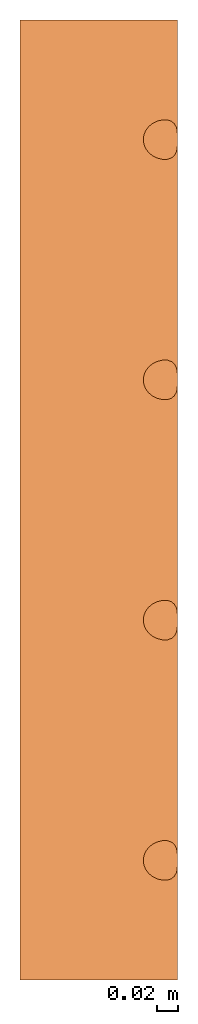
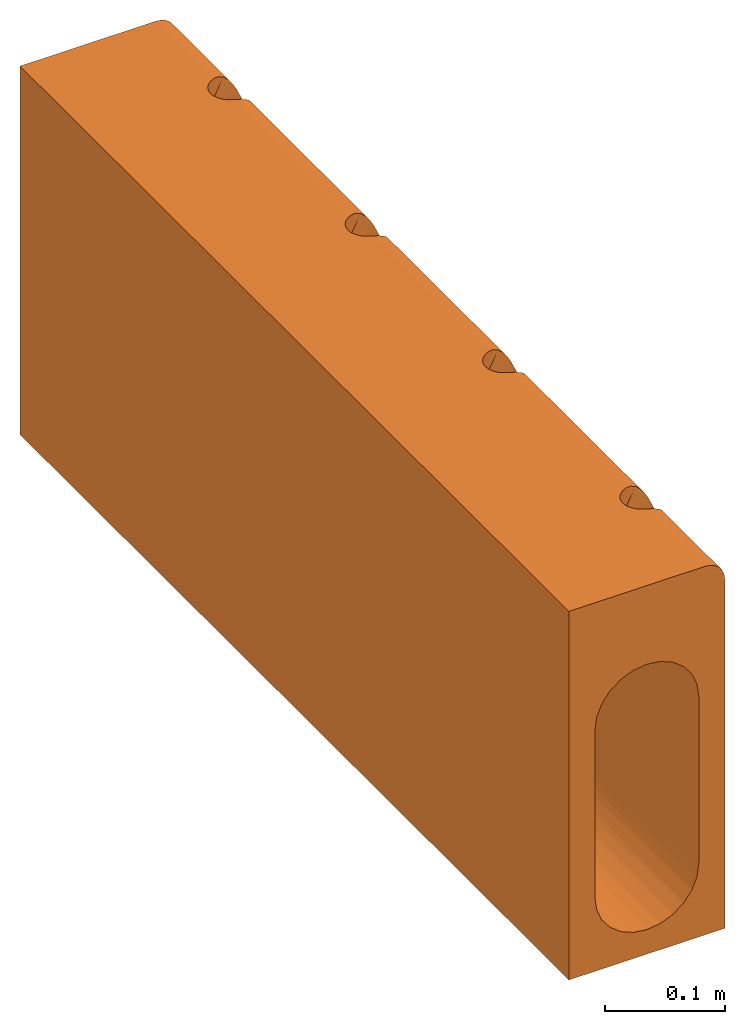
# One storey: 1 proxy.
"""IFC2X3 building model written with IfcOpenShell, lengths in millimetres."""

from ifc_helpers import new_model, entity, si_unit, converted_unit, direction, frame, origin, place, context, subcontext, project, spatial, faceted_brep, source, transform, mapped, material, element, save


model = new_model("IFC2X3")

# Units and contexts
model_context = context("Model", 3, precision=1e-06, world=origin(), true_north=direction((2.0, 6.12303176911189e-17, 1.0)))
context_of_model = context(None, 3, precision=1e-06, world=origin(), true_north=direction((2.0, 6.12303176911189e-17, 1.0)))
body_context = subcontext(model_context, "Body", "Model", "MODEL_VIEW")
ifc_project = project(units=[si_unit("LENGTHUNIT", "METRE", prefix="MILLI"), si_unit("AREAUNIT", "SQUARE_METRE", prefix="MILLI"), si_unit("VOLUMEUNIT", "CUBIC_METRE", prefix="MILLI"), converted_unit("PLANEANGLEUNIT", "DEGREE", entity("IfcRatioMeasure", 0.0174532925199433), si_unit("PLANEANGLEUNIT", "RADIAN"), dimensions=[0, 0, 0, 0, 0, 0, 0]), si_unit("TIMEUNIT", "SECOND")], contexts=[model_context, context_of_model])

# Site, building, storey
site_placement = place(None, origin())
site = spatial("IfcSite", under=ifc_project, at=site_placement, Name="Default", CompositionType="ELEMENT")
building_placement = place(site_placement, origin())
building = spatial("IfcBuilding", under=site, at=building_placement, CompositionType="ELEMENT")
storey_placement = place(building_placement, frame((0.0, 0.0, -300.0)))
storey = spatial("IfcBuildingStorey", under=building, at=storey_placement, Name="T.O. Fnd. Wall", CompositionType="ELEMENT", Elevation=-300.0)

# Proxy
ifc_material = material(Name="ACO Polymer Concrete.")
shared_shape = source(origin(), body_context, "Body", "Brep", [
    faceted_brep([(74.7936082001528, 809.213734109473, 3.79290007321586), (75.0, 915.0, 1.0), (74.3525906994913, 915.0, 5.91756185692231), (73.9518444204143, 812.883078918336, 7.22344614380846), (72.4544826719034, 915.0, 10.4999999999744), (75.0, 804.950826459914, 1.0), (72.2399714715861, 816.010689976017, 10.8622171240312), (69.4350288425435, 915.0, 14.4350288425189), (65.601292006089, 819.797446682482, 17.3955845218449), (65.4999999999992, 915.0, 17.4544826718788), (60.9083621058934, 819.859779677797, 19.3550532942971), (60.9175618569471, 915.0, 19.3525906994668), (56.0, 915.0, 20.0), (69.4750793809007, 818.422146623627, 14.3948585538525), (56.0, 818.675284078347, 20.0), (75.0, 186.850443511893, 1.0), (74.7936082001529, 334.786265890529, 3.79290007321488), (74.4775199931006, 228.500000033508, 5.425071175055), (75.0, 339.049173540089, 1.0), (73.9518444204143, 125.883078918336, 7.22344614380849), (73.9518444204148, 331.116921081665, 7.22344614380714), (72.2399714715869, 327.989310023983, 10.8622171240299), (72.2399714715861, 129.010689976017, 10.8622171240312), (74.7936082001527, 122.213734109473, 3.79290007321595), (75.0, 117.950826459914, 1.0), (69.4750793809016, 325.577853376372, 14.3948585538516), (69.4750793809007, 131.422146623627, 14.3948585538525), (65.6012920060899, 324.202553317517, 17.3955845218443), (65.601292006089, 132.797446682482, 17.3955845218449), (60.9083621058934, 132.859779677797, 19.3550532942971), (60.908362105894, 324.140220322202, 19.355053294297), (56.0, 325.324715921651, 20.0), (56.0, 131.675284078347, 20.0), (75.0, 415.849304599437, 1.0), (74.7936082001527, 563.786265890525, 3.79290007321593), (74.4775199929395, 457.500000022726, 5.42507117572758), (75.0, 568.049173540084, 1.0), (73.9518444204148, 354.883078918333, 7.22344614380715), (73.9518444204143, 560.116921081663, 7.22344614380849), (72.2399714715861, 556.989310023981, 10.8622171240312), (72.2399714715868, 358.010689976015, 10.86221712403), (74.7936082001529, 351.21373410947, 3.79290007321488), (75.0, 346.950826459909, 1.0), (69.4750793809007, 554.577853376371, 14.3948585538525), (69.4750793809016, 360.422146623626, 14.3948585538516), (65.601292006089, 553.202553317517, 17.3955845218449), (65.6012920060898, 361.797446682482, 17.3955845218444), (60.908362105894, 361.859779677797, 19.355053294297), (60.9083621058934, 553.140220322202, 19.3550532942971), (56.0, 554.324715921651, 20.0), (56.0, 360.675284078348, 20.0), (75.0, 644.849304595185, 1.0), (74.7936082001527, 792.786265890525, 3.79290007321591), (74.4775199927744, 686.500000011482, 5.42507117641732), (75.0, 797.049173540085, 1.0), (73.9518444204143, 583.883078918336, 7.22344614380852), (73.9518444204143, 789.116921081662, 7.22344614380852), (72.2399714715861, 785.989310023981, 10.8622171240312), (72.2399714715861, 587.010689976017, 10.8622171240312), (74.7936082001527, 580.213734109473, 3.79290007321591), (75.0, 575.950826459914, 1.0), (69.4750793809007, 783.577853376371, 14.3948585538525), (69.4750793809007, 589.422146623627, 14.3948585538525), (65.601292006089, 782.202553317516, 17.3955845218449), (65.601292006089, 590.797446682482, 17.3955845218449), (60.9083621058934, 590.859779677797, 19.3550532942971), (60.9083621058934, 782.140220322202, 19.3550532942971), (56.0, 783.324715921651, 20.0), (56.0, 589.675284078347, 20.0), (-75.0, 0.0, -355.0), (-43.3012701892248, 0.0, -305.0), (-48.2962913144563, 0.0, -292.940952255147), (-35.3553390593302, 0.0, -315.355339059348), (-50.0, 0.0, -280.0), (-50.0, 0.0, -110.0), (75.0, 0.0, -355.0), (12.9409522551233, 0.0, -328.296291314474), (0.0, 0.0, -330.0), (-25.0, 0.0, -323.301270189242), (-12.9409522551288, 0.0, -328.296291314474), (-48.2962913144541, 0.0, -97.059047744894), (-75.0, 0.0, 20.0), (-43.3012701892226, 0.0, -85.0), (-35.355339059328, 0.0, -74.6446609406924), (-25.0, 0.0, -66.6987298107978), (0.0, 0.0, -60.0), (56.0, 0.0, 20.0), (-12.9409522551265, 0.0, -61.7037086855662), (6.47047612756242, 0.0, -60.8518543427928), (12.9409522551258, 0.0, -61.7037086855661), (35.3553390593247, 0.0, -315.355339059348), (25.0, 0.0, -323.301270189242), (43.3012701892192, 0.0, -305.0), (48.2962913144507, 0.0, -292.940952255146), (50.0, 0.0, -280.0), (50.0, 0.0, -110.0), (75.0, 0.0, 1.0), (48.2962913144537, 0.0, -97.0590477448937), (43.3012701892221, 0.0, -85.0), (18.9704761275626, 0.0, -64.2012192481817), (65.4999999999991, 0.0, 17.4544826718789), (60.917561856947, 0.0, 19.3525906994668), (69.4350288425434, 0.0, 14.4350288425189), (25.0, 0.0, -66.6987298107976), (30.1776695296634, 0.0, -70.6716953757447), (35.3553390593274, 0.0, -74.6446609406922), (74.3525906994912, 0.0, 5.91756185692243), (72.4544826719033, 0.0, 10.4999999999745), (39.3283046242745, 0.0, -79.8223304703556), (75.0, 915.0, -355.0), (48.2962913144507, 915.0, -292.940952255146), (50.0, 915.0, -280.0), (43.3012701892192, 915.0, -305.0), (50.0, 915.0, -110.0), (25.0, 915.0, -323.301270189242), (35.3553390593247, 915.0, -315.355339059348), (48.2962913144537, 915.0, -97.0590477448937), (43.3012701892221, 915.0, -85.0), (12.9409522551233, 915.0, -328.296291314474), (12.9409522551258, 915.0, -61.7037086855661), (25.0, 915.0, -66.6987298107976), (18.9704761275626, 915.0, -64.2012192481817), (35.3553390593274, 915.0, -74.6446609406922), (30.1776695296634, 915.0, -70.6716953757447), (39.3283046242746, 915.0, -79.8223304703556), (-12.9409522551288, 915.0, -328.296291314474), (0.0, 915.0, -330.0), (-75.0, 915.0, -355.0), (-25.0, 915.0, -323.301270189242), (-35.3553390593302, 915.0, -315.355339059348), (-43.3012701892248, 915.0, -305.0), (-48.2962913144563, 915.0, -292.940952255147), (-50.0, 915.0, -280.0), (-50.0, 915.0, -110.0), (-75.0, 915.0, 20.0), (0.0, 915.0, -60.0), (-12.9409522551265, 915.0, -61.7037086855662), (-25.0, 915.0, -66.6987298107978), (-48.2962913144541, 915.0, -97.059047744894), (-35.355339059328, 915.0, -74.6446609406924), (-43.3012701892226, 915.0, -85.0), (6.47047612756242, 915.0, -60.8518543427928), (75.0, 115.986297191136, 0.314541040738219), (75.0, 114.0, 0.0852169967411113), (75.0, 112.013702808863, 0.314541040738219), (75.0, 343.0, 0.0852169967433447), (75.0, 341.013702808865, 0.314541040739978), (75.0, 344.986297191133, 0.314541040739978), (75.0, 570.013702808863, 0.314541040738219), (75.0, 110.049173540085, 1.0), (75.0, 572.0, 0.0852169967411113), (75.0, 573.986297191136, 0.314541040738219), (75.0, 799.013702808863, 0.314541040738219), (75.0, 801.0, 0.0852169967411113), (75.0, 802.986297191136, 0.314541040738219), (56.0, 96.3247159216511, 20.0), (51.5256318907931, 98.4775800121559, 20.0), (47.7505564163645, 101.513137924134, 20.0), (51.5256318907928, 327.477580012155, 20.0), (47.7505564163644, 126.486862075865, 20.0), (51.5256318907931, 129.522419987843, 20.0), (47.7505564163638, 330.513137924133, 20.0), (44.8894460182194, 122.741229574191, 20.0), (51.5256318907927, 358.522419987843, 20.0), (51.5256318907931, 556.477580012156, 20.0), (44.8894460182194, 105.258770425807, 20.0), (43.1049998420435, 109.501479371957, 20.0), (42.4986917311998, 114.0, 20.0), (43.1049998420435, 118.498520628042, 20.0), (44.8894460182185, 334.258770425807, 20.0), (44.8894460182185, 351.741229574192, 20.0), (47.7505564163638, 355.486862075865, 20.0), (44.8894460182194, 563.258770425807, 20.0), (43.1049998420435, 567.501479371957, 20.0), (42.4986917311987, 343.0, 20.0), (43.1049998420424, 338.501479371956, 20.0), (43.1049998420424, 347.498520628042, 20.0), (42.4986917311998, 572.0, 20.0), (47.7505564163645, 559.513137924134, 20.0), (51.5256318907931, 785.477580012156, 20.0), (51.5256318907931, 587.522419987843, 20.0), (47.7505564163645, 584.486862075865, 20.0), (47.7505564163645, 788.513137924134, 20.0), (44.8894460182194, 792.258770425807, 20.0), (51.525631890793, 816.522419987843, 20.0), (47.7505564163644, 813.486862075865, 20.0), (43.1049998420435, 576.498520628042, 20.0), (44.8894460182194, 580.741229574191, 20.0), (43.1049998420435, 805.498520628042, 20.0), (44.8894460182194, 809.741229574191, 20.0), (43.1049998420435, 796.501479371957, 20.0), (42.4986917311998, 801.0, 20.0), (30.4380713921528, 663.022799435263, -319.667667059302), (46.1939765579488, 251.97720488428, -299.134171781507), (39.6676669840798, 457.500000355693, -310.438071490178), (30.438071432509, 347.33270578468, -319.667667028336), (19.1341716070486, 457.499999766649, -326.193976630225), (-39.6676670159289, 251.977201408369, -310.438071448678), (-30.4380714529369, 347.332705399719, -319.667667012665), (-39.6676670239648, 567.667294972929, -310.438071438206), (-30.4380714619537, 663.022798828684, -319.667667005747), (6.52630960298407, 347.332705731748, -329.572243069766), (49.0871499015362, 586.520540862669, -289.510610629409), (50.0, 493.8015906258, -280.0), (49.2493073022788, 294.576737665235, -288.631670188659), (46.1939765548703, 567.667299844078, -299.134171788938), (6.52630957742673, 663.022799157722, -329.572243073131), (-19.1341716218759, 457.499999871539, -326.193976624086), (-6.52630961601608, 251.977201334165, -329.572243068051), (-6.5263096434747, 567.667295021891, -329.572243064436), (-46.1939766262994, 457.499999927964, -299.134171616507), (-49.1517479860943, 293.447227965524, -289.170914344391), (-50.0, 457.499999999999, -280.0), (-49.0392640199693, 607.194863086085, -289.754516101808), (74.7936082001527, 105.786265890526, 3.79290007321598), (73.9518444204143, 102.116921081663, 7.22344614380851), (72.2399714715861, 98.9893100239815, 10.8622171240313), (69.4750793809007, 96.5778533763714, 14.3948585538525), (65.601292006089, 95.2025533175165, 17.3955845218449), (60.9083621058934, 95.1402203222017, 19.3550532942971), (6.49889621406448, 126.20174657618, -60.4241555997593), (2.9932398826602, 120.538073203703, -60.0896752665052), (11.591198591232, 130.39566651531, -61.3621123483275), (17.5807698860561, 132.687226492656, -63.1927726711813), (35.5287208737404, 120.546456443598, -74.8188972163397), (35.9561601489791, 117.273228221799, -75.2613168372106), (2.35739509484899, 117.269036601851, -60.0596607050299), (1.72155030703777, 114.0, -60.0296461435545), (36.3835994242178, 114.0, -75.7037364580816), (23.6457502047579, 132.725170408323, -65.9445974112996), (20.613260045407, 132.706198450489, -64.5686850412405), (26.3103818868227, 131.598583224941, -67.5979975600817), (28.9750135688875, 130.471996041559, -69.2513977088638), (33.0192234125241, 126.246314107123, -72.4536168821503), (35.9561601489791, 110.7267717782, -75.2613168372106), (33.0192234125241, 101.753685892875, -72.4536168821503), (28.9750135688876, 97.5280039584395, -69.2513977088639), (23.6457502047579, 95.2748295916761, -65.9445974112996), (26.3103818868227, 96.4014167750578, -67.5979975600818), (35.5287208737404, 107.453543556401, -74.8188972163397), (20.613260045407, 95.2938015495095, -64.5686850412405), (17.5807698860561, 95.312773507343, -63.1927726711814), (6.49889621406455, 101.798253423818, -60.4241555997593), (11.5911985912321, 97.6043334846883, -61.3621123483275), (2.357395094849, 110.730963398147, -60.0596607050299), (2.99323988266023, 107.461926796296, -60.0896752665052), (6.49889621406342, 355.20174657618, -60.4241555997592), (2.99323988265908, 349.538073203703, -60.0896752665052), (11.5911985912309, 359.39566651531, -61.3621123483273), (17.5807698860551, 361.687226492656, -63.192772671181), (35.5287208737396, 349.546456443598, -74.8188972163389), (35.9561601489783, 346.273228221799, -75.2613168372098), (2.35739509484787, 346.269036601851, -60.0596607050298), (1.72155030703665, 343.0, -60.0296461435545), (36.383599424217, 343.0, -75.7037364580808), (23.6457502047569, 361.725170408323, -65.9445974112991), (20.613260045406, 361.706198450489, -64.56868504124), (26.3103818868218, 360.598583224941, -67.5979975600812), (28.9750135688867, 359.471996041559, -69.2513977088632), (33.0192234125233, 355.246314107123, -72.4536168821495), (35.9561601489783, 339.7267717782, -75.2613168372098), (33.0192234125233, 330.753685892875, -72.4536168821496), (28.9750135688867, 326.528003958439, -69.2513977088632), (23.645750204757, 324.274829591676, -65.9445974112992), (26.3103818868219, 325.401416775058, -67.5979975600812), (35.5287208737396, 336.453543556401, -74.8188972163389), (20.6132600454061, 324.293801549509, -64.5686850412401), (17.5807698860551, 324.312773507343, -63.192772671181), (6.49889621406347, 330.798253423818, -60.4241555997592), (11.591198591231, 326.604333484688, -61.3621123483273), (2.35739509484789, 339.730963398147, -60.0596607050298), (2.99323988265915, 336.461926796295, -60.0896752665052), (6.4988962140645, 584.20174657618, -60.4241555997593), (2.99323988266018, 578.538073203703, -60.0896752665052), (11.591198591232, 588.39566651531, -61.3621123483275), (17.5807698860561, 590.687226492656, -63.1927726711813), (35.5287208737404, 578.546456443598, -74.8188972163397), (35.9561601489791, 575.273228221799, -75.2613168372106), (2.35739509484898, 575.269036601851, -60.0596607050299), (1.72155030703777, 572.0, -60.0296461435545), (36.3835994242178, 572.0, -75.7037364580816), (23.6457502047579, 590.725170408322, -65.9445974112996), (20.613260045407, 590.706198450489, -64.5686850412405), (26.3103818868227, 589.598583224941, -67.5979975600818), (28.9750135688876, 588.471996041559, -69.2513977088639), (33.0192234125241, 584.246314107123, -72.4536168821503), (35.9561601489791, 568.7267717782, -75.2613168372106), (33.0192234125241, 559.753685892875, -72.4536168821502), (28.9750135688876, 555.528003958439, -69.2513977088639), (23.6457502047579, 553.274829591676, -65.9445974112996), (26.3103818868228, 554.401416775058, -67.5979975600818), (35.5287208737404, 565.453543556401, -74.8188972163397), (20.613260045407, 553.293801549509, -64.5686850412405), (17.5807698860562, 553.312773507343, -63.1927726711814), (6.49889621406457, 559.798253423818, -60.4241555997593), (11.5911985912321, 555.604333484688, -61.3621123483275), (2.35739509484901, 568.730963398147, -60.0596607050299), (2.99323988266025, 565.461926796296, -60.0896752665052), (6.49889621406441, 813.20174657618, -60.4241555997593), (2.99323988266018, 807.538073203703, -60.0896752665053), (11.591198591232, 817.39566651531, -61.3621123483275), (17.5807698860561, 819.687226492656, -63.1927726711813), (35.5287208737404, 807.546456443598, -74.8188972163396), (35.9561601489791, 804.273228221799, -75.2613168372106), (2.35739509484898, 804.269036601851, -60.0596607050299), (1.72155030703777, 801.0, -60.0296461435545), (36.3835994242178, 801.0, -75.7037364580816), (23.6457502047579, 819.725170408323, -65.9445974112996), (20.613260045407, 819.706198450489, -64.5686850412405), (26.3103818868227, 818.598583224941, -67.5979975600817), (28.9750135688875, 817.471996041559, -69.2513977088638), (33.0192234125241, 813.246314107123, -72.4536168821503), (35.9561601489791, 797.7267717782, -75.2613168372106), (33.0192234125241, 788.753685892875, -72.4536168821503), (28.9750135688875, 784.528003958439, -69.2513977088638), (23.6457502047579, 782.274829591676, -65.9445974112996), (26.3103818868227, 783.401416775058, -67.5979975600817), (35.5287208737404, 794.453543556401, -74.8188972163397), (20.613260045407, 782.293801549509, -64.5686850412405), (17.5807698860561, 782.312773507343, -63.1927726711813), (6.49889621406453, 788.798253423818, -60.4241555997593), (11.5911985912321, 784.604333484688, -61.3621123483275), (2.357395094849, 797.730963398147, -60.0596607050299), (2.99323988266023, 794.461926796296, -60.0896752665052), (-50.0, 457.497874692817, -110.0), (-46.1939766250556, 457.499999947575, -90.8658283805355), (-39.6676670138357, 347.332705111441, -79.5619285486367), (-13.3637507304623, 457.500000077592, -61.8189854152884), (-22.3107413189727, 305.158484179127, -65.253706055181), (-30.4380714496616, 457.499999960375, -70.3323329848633), (-49.0392640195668, 307.805136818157, -100.24548389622), (-39.667667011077, 663.022798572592, -79.5619285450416), (-49.1517479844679, 621.552772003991, -100.829085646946), (-21.9970166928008, 618.012434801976, -65.0986497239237), (50.0, 457.499999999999, -110.0), (48.7967670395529, 578.837906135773, -99.0969946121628), (45.2449789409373, 457.499999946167, -88.7187434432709), (49.2582199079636, 278.958027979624, -101.419337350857)], [[[0, 1, 2]], [[3, 2, 4]], [[0, 5, 1]], [[6, 3, 4]], [[0, 2, 3]], [[4, 7, 6]], [[8, 7, 9]], [[10, 9, 11]], [[10, 11, 12]], [[8, 13, 7]], [[14, 10, 12]], [[8, 9, 10]], [[7, 13, 6]], [[15, 16, 17]], [[15, 18, 16]], [[19, 20, 21, 22]], [[17, 19, 23]], [[16, 20, 17]], [[19, 17, 20]], [[15, 17, 23]], [[15, 23, 24]], [[22, 21, 25, 26]], [[26, 25, 27, 28]], [[29, 30, 31, 32]], [[28, 27, 30, 29]], [[33, 34, 35]], [[33, 36, 34]], [[37, 38, 39, 40]], [[35, 37, 41]], [[34, 38, 35]], [[37, 35, 38]], [[33, 35, 41]], [[33, 41, 42]], [[40, 39, 43, 44]], [[44, 43, 45, 46]], [[47, 48, 49, 50]], [[46, 45, 48, 47]], [[51, 52, 53]], [[51, 54, 52]], [[55, 56, 57, 58]], [[53, 55, 59]], [[52, 56, 53]], [[55, 53, 56]], [[51, 53, 59]], [[51, 59, 60]], [[58, 57, 61, 62]], [[62, 61, 63, 64]], [[65, 66, 67, 68]], [[64, 63, 66, 65]], [[69, 70, 71]], [[70, 69, 72]], [[71, 73, 69]], [[69, 73, 74]], [[75, 76, 77]], [[78, 72, 69]], [[79, 78, 69]], [[77, 79, 69, 75]], [[74, 80, 81, 69]], [[81, 82, 83]], [[82, 81, 80]], [[83, 84, 81]], [[85, 86, 81, 87]], [[84, 87, 81]], [[86, 85, 88, 89]], [[90, 91, 75]], [[90, 75, 92]], [[93, 75, 94]], [[75, 93, 92]], [[95, 94, 75, 96]], [[97, 95, 96]], [[91, 76, 75]], [[98, 97, 96]], [[96, 86, 89, 99]], [[100, 101, 86, 102]], [[96, 103, 104, 105]], [[86, 106, 107, 102]], [[106, 86, 96]], [[96, 105, 108, 98]], [[109, 110, 111]], [[110, 109, 112]], [[109, 111, 113, 1]], [[114, 115, 109]], [[116, 117, 1]], [[115, 112, 109]], [[109, 118, 114]], [[113, 116, 1]], [[4, 2, 12, 7]], [[12, 2, 1, 119]], [[12, 11, 9, 7]], [[1, 120, 121, 119]], [[1, 122, 123, 120]], [[1, 117, 124, 122]], [[125, 126, 127]], [[125, 127, 128]], [[126, 118, 109, 127]], [[129, 127, 130]], [[127, 129, 128]], [[131, 130, 127]], [[132, 131, 127]], [[133, 132, 127, 134]], [[135, 136, 134, 12]], [[137, 134, 136]], [[138, 133, 134]], [[139, 140, 134]], [[134, 140, 138]], [[139, 134, 137]], [[12, 119, 141, 135]], [[109, 75, 69, 127]], [[75, 142, 143]], [[24, 142, 75, 15]], [[75, 143, 144]], [[145, 146, 75]], [[147, 145, 75, 109]], [[148, 42, 147, 109]], [[75, 146, 18, 15]], [[144, 149, 96, 75]], [[150, 148, 109]], [[151, 150, 109]], [[152, 109, 153]], [[60, 151, 109, 51]], [[153, 109, 154]], [[148, 36, 33, 42]], [[109, 152, 54, 51]], [[1, 5, 154, 109]], [[86, 155, 156]], [[86, 156, 157, 81]], [[158, 159, 160, 31]], [[159, 158, 161, 162]], [[163, 50, 49, 164]], [[160, 32, 31]], [[165, 166, 81]], [[81, 167, 168]], [[167, 81, 166]], [[81, 168, 162, 169]], [[165, 81, 157]], [[169, 162, 161]], [[170, 171, 172, 173]], [[174, 134, 81, 175]], [[176, 170, 173, 177]], [[169, 175, 81]], [[174, 176, 177, 134]], [[171, 163, 178, 172]], [[179, 180, 68, 67]], [[181, 180, 182, 183]], [[184, 14, 12]], [[185, 184, 12, 134]], [[179, 182, 180]], [[177, 186, 134]], [[187, 134, 186]], [[187, 181, 183]], [[188, 189, 134]], [[190, 191, 134]], [[134, 191, 188]], [[183, 190, 134, 187]], [[189, 185, 134]], [[164, 178, 163]], [[127, 69, 81, 134]], [[192, 115, 114]], [[92, 193, 194]], [[195, 192, 196]], [[92, 194, 90]], [[76, 91, 196]], [[197, 72, 198]], [[129, 199, 200]], [[195, 90, 194]], [[115, 192, 194]], [[76, 196, 201]], [[202, 203, 111]], [[204, 193, 93]], [[198, 72, 78]], [[195, 91, 90]], [[110, 112, 205]], [[205, 112, 194]], [[193, 205, 194]], [[194, 112, 115]], [[195, 194, 192]], [[201, 77, 76]], [[196, 114, 118]], [[93, 94, 204]], [[206, 201, 196]], [[204, 202, 205]], [[78, 79, 207]], [[208, 77, 201]], [[126, 209, 206]], [[207, 198, 78]], [[71, 70, 210]], [[197, 70, 72]], [[126, 206, 118]], [[199, 210, 197]], [[129, 200, 128]], [[211, 212, 73]], [[209, 125, 207]], [[207, 125, 128]], [[129, 130, 199]], [[131, 132, 213]], [[192, 114, 196]], [[200, 198, 207]], [[93, 193, 92]], [[199, 130, 210]], [[131, 210, 130]], [[203, 202, 204]], [[131, 213, 210]], [[195, 196, 91]], [[208, 79, 77]], [[208, 209, 207]], [[211, 213, 212]], [[126, 125, 209]], [[193, 204, 205]], [[203, 204, 94]], [[202, 110, 205]], [[110, 202, 111]], [[118, 206, 196]], [[201, 206, 209, 208]], [[128, 200, 207]], [[198, 200, 199, 197]], [[79, 208, 207]], [[70, 197, 210]], [[71, 210, 211]], [[212, 213, 132]], [[213, 211, 210]], [[71, 211, 73]], [[214, 215, 106]], [[149, 214, 96]], [[96, 214, 106]], [[107, 216, 102]], [[107, 106, 215]], [[216, 107, 215]], [[217, 218, 102]], [[219, 155, 86]], [[218, 219, 100]], [[102, 218, 100]], [[100, 219, 101]], [[219, 86, 101]], [[217, 102, 216]], [[220, 159, 162]], [[221, 162, 168]], [[32, 160, 222]], [[29, 32, 223]], [[24, 224, 225]], [[220, 160, 159]], [[226, 168, 167]], [[226, 167, 227]], [[228, 142, 225]], [[220, 162, 221]], [[222, 160, 220]], [[222, 223, 32]], [[229, 28, 230]], [[29, 230, 28]], [[28, 231, 26]], [[26, 232, 22]], [[23, 19, 233]], [[19, 22, 233]], [[24, 225, 142]], [[29, 223, 230]], [[28, 229, 231]], [[233, 22, 232]], [[23, 224, 24]], [[23, 233, 224]], [[143, 142, 228]], [[226, 221, 168]], [[231, 232, 26]], [[234, 144, 228]], [[149, 144, 234]], [[216, 215, 235]], [[235, 215, 214]], [[236, 217, 216]], [[237, 218, 238]], [[214, 149, 239]], [[217, 236, 238]], [[235, 214, 239]], [[236, 216, 235]], [[217, 238, 218]], [[234, 239, 149]], [[240, 241, 219]], [[218, 237, 240]], [[219, 241, 155]], [[242, 165, 157]], [[156, 155, 243]], [[157, 156, 242]], [[227, 167, 244]], [[243, 155, 241]], [[242, 156, 243]], [[166, 245, 244]], [[166, 244, 167]], [[165, 242, 245]], [[166, 165, 245]], [[144, 143, 228]], [[240, 219, 218]], [[246, 171, 170]], [[247, 170, 176]], [[50, 163, 248]], [[47, 50, 249]], [[42, 250, 251]], [[246, 163, 171]], [[252, 176, 174]], [[252, 174, 253]], [[254, 147, 251]], [[246, 170, 247]], [[248, 163, 246]], [[248, 249, 50]], [[255, 46, 256]], [[47, 256, 46]], [[46, 257, 44]], [[44, 258, 40]], [[41, 37, 259]], [[37, 40, 259]], [[42, 251, 147]], [[47, 249, 256]], [[46, 255, 257]], [[259, 40, 258]], [[41, 250, 42]], [[41, 259, 250]], [[145, 147, 254]], [[252, 247, 176]], [[257, 258, 44]], [[260, 146, 254]], [[18, 146, 260]], [[21, 20, 261]], [[261, 20, 16]], [[262, 25, 21]], [[263, 27, 264]], [[16, 18, 265]], [[25, 262, 264]], [[261, 16, 265]], [[262, 21, 261]], [[25, 264, 27]], [[260, 265, 18]], [[266, 267, 30]], [[27, 263, 266]], [[30, 267, 31]], [[268, 169, 161]], [[158, 31, 269]], [[161, 158, 268]], [[253, 174, 270]], [[269, 31, 267]], [[268, 158, 269]], [[175, 271, 270]], [[175, 270, 174]], [[169, 268, 271]], [[175, 169, 271]], [[146, 145, 254]], [[266, 30, 27]], [[272, 181, 187]], [[273, 187, 186]], [[68, 180, 274]], [[65, 68, 275]], [[60, 276, 277]], [[272, 180, 181]], [[278, 186, 177]], [[278, 177, 279]], [[280, 151, 277]], [[272, 187, 273]], [[274, 180, 272]], [[274, 275, 68]], [[281, 64, 282]], [[65, 282, 64]], [[64, 283, 62]], [[62, 284, 58]], [[59, 55, 285]], [[55, 58, 285]], [[60, 277, 151]], [[65, 275, 282]], [[64, 281, 283]], [[285, 58, 284]], [[59, 276, 60]], [[59, 285, 276]], [[150, 151, 280]], [[278, 273, 186]], [[283, 284, 62]], [[286, 148, 280]], [[36, 148, 286]], [[39, 38, 287]], [[287, 38, 34]], [[288, 43, 39]], [[289, 45, 290]], [[34, 36, 291]], [[43, 288, 290]], [[287, 34, 291]], [[288, 39, 287]], [[43, 290, 45]], [[286, 291, 36]], [[292, 293, 48]], [[45, 289, 292]], [[48, 293, 49]], [[294, 172, 178]], [[164, 49, 295]], [[178, 164, 294]], [[279, 177, 296]], [[295, 49, 293]], [[294, 164, 295]], [[173, 297, 296]], [[173, 296, 177]], [[172, 294, 297]], [[173, 172, 297]], [[148, 150, 280]], [[292, 48, 45]], [[298, 185, 189]], [[299, 189, 188]], [[14, 184, 300]], [[10, 14, 301]], [[5, 302, 303]], [[298, 184, 185]], [[304, 188, 191]], [[304, 191, 305]], [[306, 154, 303]], [[298, 189, 299]], [[300, 184, 298]], [[300, 301, 14]], [[307, 8, 308]], [[10, 308, 8]], [[8, 309, 13]], [[13, 310, 6]], [[0, 3, 311]], [[3, 6, 311]], [[5, 303, 154]], [[10, 301, 308]], [[8, 307, 309]], [[311, 6, 310]], [[0, 302, 5]], [[0, 311, 302]], [[153, 154, 306]], [[304, 299, 188]], [[309, 310, 13]], [[312, 152, 306]], [[54, 152, 312]], [[57, 56, 313]], [[313, 56, 52]], [[314, 61, 57]], [[315, 63, 316]], [[52, 54, 317]], [[61, 314, 316]], [[313, 52, 317]], [[314, 57, 313]], [[61, 316, 63]], [[312, 317, 54]], [[318, 319, 66]], [[63, 315, 318]], [[66, 319, 67]], [[320, 183, 182]], [[179, 67, 321]], [[182, 179, 320]], [[305, 191, 322]], [[321, 67, 319]], [[320, 179, 321]], [[190, 323, 322]], [[190, 322, 191]], [[183, 320, 323]], [[190, 183, 323]], [[152, 153, 306]], [[318, 66, 63]], [[133, 324, 73, 212]], [[80, 325, 82]], [[325, 326, 82]], [[327, 87, 328]], [[84, 83, 329]], [[85, 87, 227]], [[325, 80, 330]], [[253, 227, 87]], [[221, 226, 253, 270]], [[253, 327, 279]], [[220, 221, 271, 268]], [[242, 88, 245]], [[306, 124, 280]], [[85, 227, 244, 245]], [[99, 89, 241]], [[85, 245, 88]], [[331, 140, 139]], [[332, 330, 324]], [[222, 220, 268, 269]], [[241, 89, 243]], [[88, 242, 243]], [[237, 103, 99]], [[327, 328, 333]], [[243, 89, 88]], [[334, 335, 113]], [[136, 333, 137]], [[310, 123, 311]], [[328, 84, 329]], [[246, 247, 297, 294]], [[269, 267, 223, 222]], [[138, 325, 332]], [[331, 139, 329]], [[84, 328, 87]], [[229, 230, 267, 266]], [[333, 328, 329]], [[247, 252, 279, 296]], [[140, 325, 138]], [[273, 278, 305, 322]], [[305, 279, 136]], [[272, 273, 323, 320]], [[121, 307, 308, 301]], [[104, 103, 236]], [[133, 332, 324]], [[135, 299, 304, 305]], [[325, 331, 326]], [[327, 136, 279]], [[139, 137, 329]], [[253, 87, 327]], [[136, 135, 305]], [[108, 105, 228]], [[74, 330, 80]], [[294, 295, 248, 246]], [[295, 293, 249, 248]], [[255, 256, 293, 292]], [[326, 329, 83]], [[97, 336, 337]], [[326, 331, 329]], [[336, 97, 98]], [[298, 141, 300]], [[326, 83, 82]], [[299, 135, 141]], [[320, 321, 274, 272]], [[275, 274, 321, 319]], [[300, 141, 119]], [[300, 119, 301]], [[140, 331, 325]], [[337, 335, 334]], [[298, 299, 141]], [[137, 333, 329]], [[116, 113, 335]], [[324, 330, 74]], [[99, 241, 240, 237]], [[103, 237, 238, 236]], [[104, 236, 235]], [[235, 105, 104]], [[233, 232, 262, 261]], [[232, 231, 263, 264]], [[258, 257, 289, 290]], [[97, 337, 95]], [[105, 239, 234, 228]], [[254, 98, 108]], [[336, 98, 254]], [[108, 228, 254]], [[336, 280, 117]], [[224, 233, 261, 265]], [[228, 225, 265, 260]], [[250, 259, 287, 291]], [[259, 258, 288, 287]], [[254, 251, 291, 286]], [[105, 235, 239]], [[334, 95, 337]], [[281, 282, 319, 318]], [[138, 332, 133]], [[284, 283, 315, 316]], [[285, 284, 314, 313]], [[335, 337, 336]], [[330, 332, 325]], [[121, 120, 307]], [[327, 333, 136]], [[120, 310, 309, 307]], [[123, 310, 120]], [[119, 121, 301]], [[276, 285, 313, 317]], [[280, 277, 317, 312]], [[122, 302, 311]], [[122, 306, 303, 302]], [[311, 123, 122]], [[122, 124, 306]], [[124, 117, 280]], [[254, 280, 336]], [[116, 336, 117]], [[116, 335, 336]], [[111, 203, 95, 334]], [[96, 99, 103]], [[73, 324, 74]], [[133, 212, 132]], [[253, 226, 227]], [[221, 270, 271]], [[267, 230, 223]], [[279, 252, 253]], [[247, 296, 297]], [[305, 278, 279]], [[273, 322, 323]], [[293, 256, 249]], [[263, 231, 229]], [[255, 292, 289]], [[289, 257, 255]], [[258, 290, 288]], [[232, 264, 262]], [[229, 266, 263]], [[265, 225, 224]], [[228, 260, 254]], [[291, 251, 250]], [[319, 282, 275]], [[315, 283, 281]], [[281, 318, 315]], [[284, 316, 314]], [[317, 277, 276]], [[280, 312, 306]], [[254, 286, 280]], [[95, 203, 94]], [[111, 334, 113]]]),
])
proxy_placement = place(storey_placement, frame((-5682.99544306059, -10247.1166238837, 300.0)))
element("IfcBuildingElementProxy", 1, at=proxy_placement, inside=storey, material=ifc_material, Name="Civil-Drainage-Channel-ACO-KerbDrain-HB480(amar):4983 - Perforated Centre Stone - 915mm LG:4983 - Perforated Centre Stone - 915mm LG", ObjectType="4983 - Perforated Centre Stone - 915mm LG", CompositionType="ELEMENT", context=body_context, shape_type="MappedRepresentation", body=[
    mapped(shared_shape, transform((0.0, 0.0, 0.0), scale=1.0)),
])

save(model, "model.ifc")
